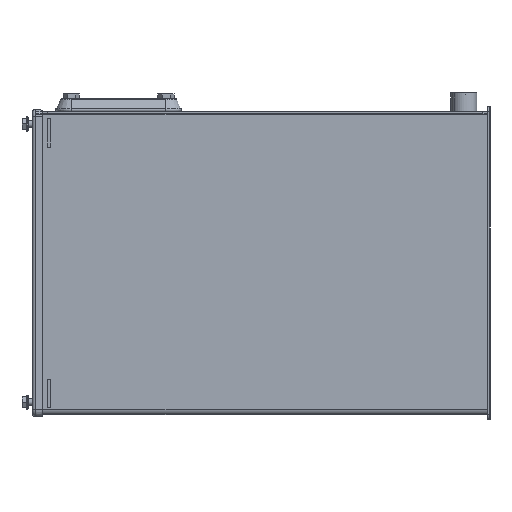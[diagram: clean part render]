
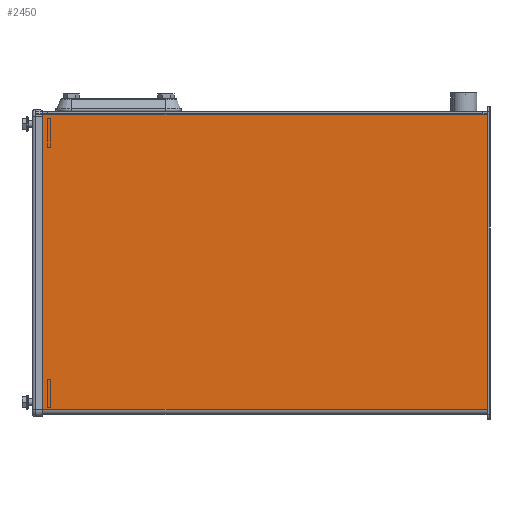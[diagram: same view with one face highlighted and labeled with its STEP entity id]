
A CAD part, left-side view. The second image highlights one B-rep face of the part: STEP entity #2450.
In plain terms, the highlighted planar face has unit normal (-1, 0, 0).
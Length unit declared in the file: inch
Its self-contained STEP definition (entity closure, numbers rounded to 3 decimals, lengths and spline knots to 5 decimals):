
#17 = ORIENTED_EDGE ( 'NONE', *, *, #15711, .T. ) ;
#1724 = LINE ( 'NONE', #11496, #14449 ) ;
#1861 = CARTESIAN_POINT ( 'NONE',  ( -10.14028, 34.98286, 21.56572 ) ) ;
#1945 = EDGE_CURVE ( 'NONE', #16053, #9096, #10231, .T. ) ;
#2119 = CARTESIAN_POINT ( 'NONE',  ( -10.14028, 11.10786, 21.56572 ) ) ;
#2450 = ADVANCED_FACE ( 'NONE', ( #12259 ), #8099, .F. ) ;
#3418 = EDGE_LOOP ( 'NONE', ( #6255, #21365, #16221, #17 ) ) ;
#3884 = VECTOR ( 'NONE', #20806, 39.37008 ) ;
#4827 = CARTESIAN_POINT ( 'NONE',  ( -10.14028, 34.98286, 37.15112 ) ) ;
#4858 = DIRECTION ( 'NONE',  ( 0., 1., 0. ) ) ;
#5316 = DIRECTION ( 'NONE',  ( 0., 1., 0. ) ) ;
#6255 = ORIENTED_EDGE ( 'NONE', *, *, #10430, .F. ) ;
#6989 = CARTESIAN_POINT ( 'NONE',  ( -10.14028, 11.10786, 37.15112 ) ) ;
#7476 = LINE ( 'NONE', #6989, #16228 ) ;
#8099 = PLANE ( 'NONE',  #15804 ) ;
#9096 = VERTEX_POINT ( 'NONE', #16669 ) ;
#10231 = LINE ( 'NONE', #11948, #19040 ) ;
#10430 = EDGE_CURVE ( 'NONE', #16053, #13524, #1724, .T. ) ;
#10551 = EDGE_CURVE ( 'NONE', #9096, #10924, #7476, .T. ) ;
#10924 = VERTEX_POINT ( 'NONE', #4827 ) ;
#11403 = DIRECTION ( 'NONE',  ( 0., 0., -1. ) ) ;
#11496 = CARTESIAN_POINT ( 'NONE',  ( -10.14028, 34.98286, 21.56572 ) ) ;
#11948 = CARTESIAN_POINT ( 'NONE',  ( -10.14028, 11.10786, 21.27612 ) ) ;
#12259 = FACE_OUTER_BOUND ( 'NONE', #3418, .T. ) ;
#13524 = VERTEX_POINT ( 'NONE', #1861 ) ;
#13617 = DIRECTION ( 'NONE',  ( 0., 0., 1. ) ) ;
#14449 = VECTOR ( 'NONE', #4858, 39.37008 ) ;
#15711 = EDGE_CURVE ( 'NONE', #10924, #13524, #20945, .T. ) ;
#15804 = AXIS2_PLACEMENT_3D ( 'NONE', #19648, #21304, #11403 ) ;
#16053 = VERTEX_POINT ( 'NONE', #2119 ) ;
#16221 = ORIENTED_EDGE ( 'NONE', *, *, #10551, .T. ) ;
#16228 = VECTOR ( 'NONE', #5316, 39.37008 ) ;
#16669 = CARTESIAN_POINT ( 'NONE',  ( -10.14028, 11.10786, 37.15112 ) ) ;
#19040 = VECTOR ( 'NONE', #13617, 39.37008 ) ;
#19198 = CARTESIAN_POINT ( 'NONE',  ( -10.14028, 34.98286, 21.27612 ) ) ;
#19648 = CARTESIAN_POINT ( 'NONE',  ( -10.14028, 11.10786, 21.27612 ) ) ;
#20806 = DIRECTION ( 'NONE',  ( 0., 0., -1. ) ) ;
#20945 = LINE ( 'NONE', #19198, #3884 ) ;
#21304 = DIRECTION ( 'NONE',  ( 1., 0., 0. ) ) ;
#21365 = ORIENTED_EDGE ( 'NONE', *, *, #1945, .T. ) ;
